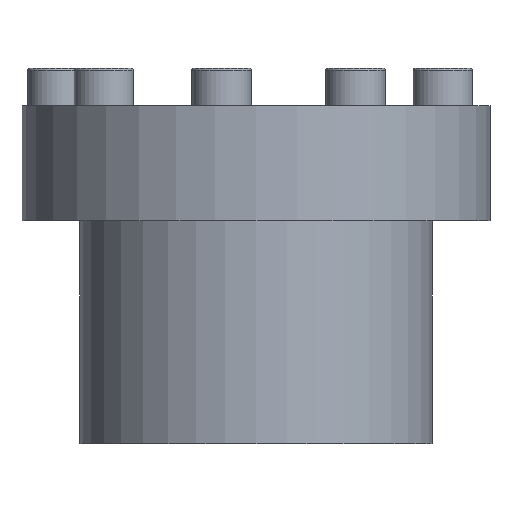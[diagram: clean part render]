
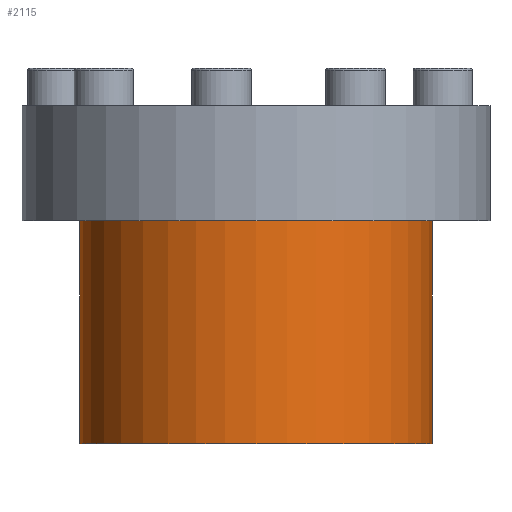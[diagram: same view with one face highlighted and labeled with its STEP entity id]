
A CAD part, front view. The second image highlights one B-rep face of the part: STEP entity #2115.
In plain terms, the highlighted cylindrical face has radius 47.4 mm (diameter 94.8 mm), a partial arc.
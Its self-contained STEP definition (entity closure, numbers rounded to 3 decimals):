
#26 = VERTEX_POINT ( 'NONE', #2589 ) ;
#43 = CARTESIAN_POINT ( 'NONE',  ( 0., 0., 0. ) ) ;
#176 = ORIENTED_EDGE ( 'NONE', *, *, #236, .F. ) ;
#185 = DIRECTION ( 'NONE',  ( 1., 0., 0. ) ) ;
#236 = EDGE_CURVE ( 'NONE', #26, #292, #2836, .T. ) ;
#244 = FACE_OUTER_BOUND ( 'NONE', #1482, .T. ) ;
#292 = VERTEX_POINT ( 'NONE', #295 ) ;
#295 = CARTESIAN_POINT ( 'NONE',  ( -47.4, 0., -31. ) ) ;
#366 = LINE ( 'NONE', #2778, #534 ) ;
#534 = VECTOR ( 'NONE', #3268, 1000. ) ;
#538 = VERTEX_POINT ( 'NONE', #2334 ) ;
#703 = ORIENTED_EDGE ( 'NONE', *, *, #1725, .T. ) ;
#928 = VERTEX_POINT ( 'NONE', #2763 ) ;
#1240 = CYLINDRICAL_SURFACE ( 'NONE', #1478, 47.4 ) ;
#1335 = CIRCLE ( 'NONE', #2753, 47.4 ) ;
#1356 = DIRECTION ( 'NONE',  ( 1., 0., 0. ) ) ;
#1384 = VECTOR ( 'NONE', #3332, 1000. ) ;
#1478 = AXIS2_PLACEMENT_3D ( 'NONE', #43, #2900, #1356 ) ;
#1482 = EDGE_LOOP ( 'NONE', ( #176, #703, #2211, #2217 ) ) ;
#1612 = CIRCLE ( 'NONE', #2974, 47.4 ) ;
#1725 = EDGE_CURVE ( 'NONE', #26, #928, #1612, .T. ) ;
#1777 = DIRECTION ( 'NONE',  ( 0., 0., 1. ) ) ;
#2025 = DIRECTION ( 'NONE',  ( 0., 0., 1. ) ) ;
#2115 = ADVANCED_FACE ( 'NONE', ( #244 ), #1240, .T. ) ;
#2211 = ORIENTED_EDGE ( 'NONE', *, *, #3032, .T. ) ;
#2217 = ORIENTED_EDGE ( 'NONE', *, *, #3012, .F. ) ;
#2292 = CARTESIAN_POINT ( 'NONE',  ( 0., 0., -31. ) ) ;
#2299 = DIRECTION ( 'NONE',  ( 1., 0., 0. ) ) ;
#2334 = CARTESIAN_POINT ( 'NONE',  ( 47.4, 0., -31. ) ) ;
#2589 = CARTESIAN_POINT ( 'NONE',  ( -47.4, 0., -91. ) ) ;
#2753 = AXIS2_PLACEMENT_3D ( 'NONE', #2292, #2025, #185 ) ;
#2763 = CARTESIAN_POINT ( 'NONE',  ( 47.4, 0., -91. ) ) ;
#2778 = CARTESIAN_POINT ( 'NONE',  ( 47.4, 0., 0. ) ) ;
#2836 = LINE ( 'NONE', #3301, #1384 ) ;
#2900 = DIRECTION ( 'NONE',  ( 0., 0., 1. ) ) ;
#2974 = AXIS2_PLACEMENT_3D ( 'NONE', #3330, #1777, #2299 ) ;
#3012 = EDGE_CURVE ( 'NONE', #292, #538, #1335, .T. ) ;
#3032 = EDGE_CURVE ( 'NONE', #928, #538, #366, .T. ) ;
#3268 = DIRECTION ( 'NONE',  ( 0., 0., 1. ) ) ;
#3301 = CARTESIAN_POINT ( 'NONE',  ( -47.4, 0., 0. ) ) ;
#3330 = CARTESIAN_POINT ( 'NONE',  ( 0., 0., -91. ) ) ;
#3332 = DIRECTION ( 'NONE',  ( 0., 0., 1. ) ) ;
